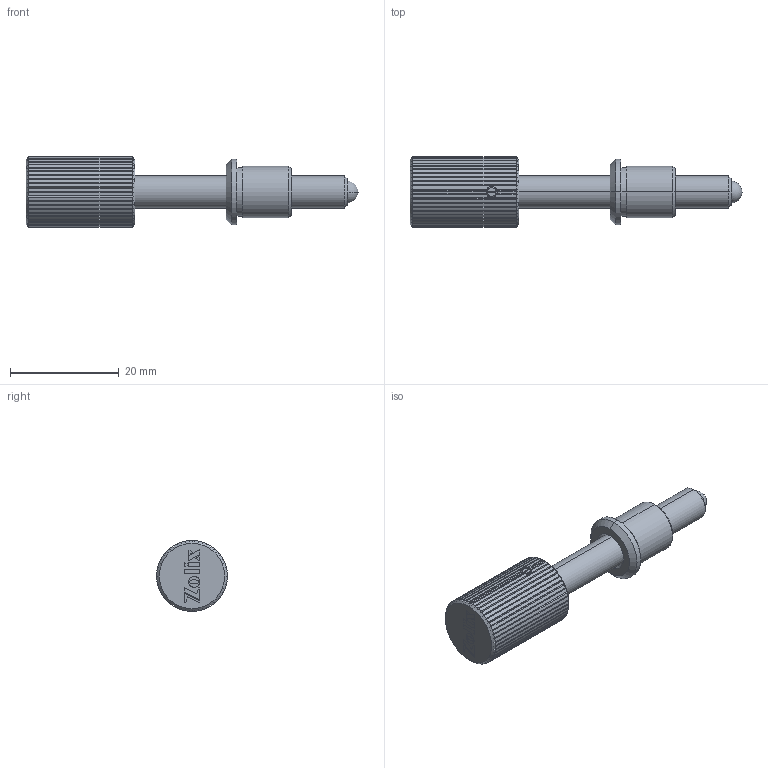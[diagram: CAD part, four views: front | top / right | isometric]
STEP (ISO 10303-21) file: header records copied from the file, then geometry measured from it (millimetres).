
FILE_DESCRIPTION (( 'STEP AP203' ), '1' );
FILE_NAME ('ACFS25-1.step', '2019-05-09T08:54:00', ( '' ), ( '' ), 'SwSTEP 2.0', 'SolidWorks 2016', '' );
FILE_SCHEMA (( 'CONFIG_CONTROL_DESIGN' ));
Length unit declared in the file: millimetre
Products named in the file (1): ACFS25-1
Bounding box: 61 x 13 x 13 mm (x, y, z)
Surface area: 2752.4 mm2 (no closed solid volume)
Topology: 0 solids, 6 shells, 236 faces, 890 edges, 655 vertices
Faces by surface type: plane 155, cylinder 63, cone 16, sphere 2
Entity records: 9646 total; most frequent: CARTESIAN_POINT 2485, ORIENTED_EDGE 1496, DIRECTION 1287, EDGE_CURVE 885, VERTEX_POINT 652, LINE 517, VECTOR 517, AXIS2_PLACEMENT_3D 385
